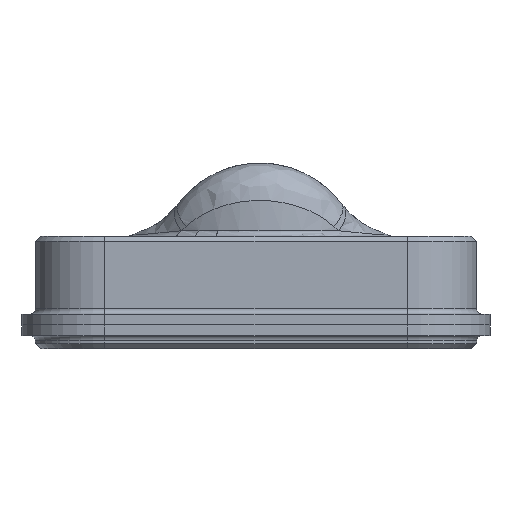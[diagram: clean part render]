
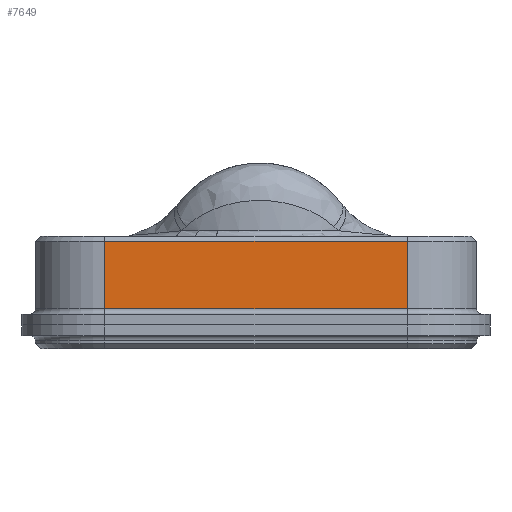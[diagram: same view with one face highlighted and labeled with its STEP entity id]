
A CAD part, left-side view. The second image highlights one B-rep face of the part: STEP entity #7649.
In plain terms, the highlighted planar face has unit normal (1, 0, 0).
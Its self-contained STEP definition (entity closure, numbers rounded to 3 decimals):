
#7622=AXIS2_PLACEMENT_3D('Plane Axis2P3D',#7619,#7620,#7621) ;
#7597=CARTESIAN_POINT('Vertex',(-0.588,73.95,15.6)) ;
#7600=CARTESIAN_POINT('Line Origine',(-0.588,73.95,9.3)) ;
#7604=CARTESIAN_POINT('Vertex',(-0.588,73.95,3.)) ;
#7619=CARTESIAN_POINT('Axis2P3D Location',(-0.588,73.95,0.)) ;
#7624=CARTESIAN_POINT('Line Origine',(-0.588,45.7,15.6)) ;
#7628=CARTESIAN_POINT('Vertex',(-0.588,17.45,15.6)) ;
#7631=CARTESIAN_POINT('Line Origine',(-0.588,17.45,9.3)) ;
#7635=CARTESIAN_POINT('Vertex',(-0.588,17.45,3.)) ;
#7638=CARTESIAN_POINT('Line Origine',(-0.588,45.7,3.)) ;
#7601=DIRECTION('Vector Direction',(0.,0.,1.)) ;
#7620=DIRECTION('Axis2P3D Direction',(-1.,0.,0.)) ;
#7621=DIRECTION('Axis2P3D XDirection',(0.,-1.,0.)) ;
#7625=DIRECTION('Vector Direction',(0.,-1.,0.)) ;
#7632=DIRECTION('Vector Direction',(0.,0.,1.)) ;
#7639=DIRECTION('Vector Direction',(0.,-1.,0.)) ;
#7602=VECTOR('Line Direction',#7601,1.) ;
#7626=VECTOR('Line Direction',#7625,1.) ;
#7633=VECTOR('Line Direction',#7632,1.) ;
#7640=VECTOR('Line Direction',#7639,1.) ;
#7644=ORIENTED_EDGE('',*,*,#7630,.T.) ;
#7645=ORIENTED_EDGE('',*,*,#7637,.F.) ;
#7646=ORIENTED_EDGE('',*,*,#7642,.T.) ;
#7647=ORIENTED_EDGE('',*,*,#7606,.T.) ;
#7649=ADVANCED_FACE('Extract.2',(#7648),#7623,.F.) ;
#7606=EDGE_CURVE('',#7605,#7598,#7603,.T.) ;
#7630=EDGE_CURVE('',#7598,#7629,#7627,.T.) ;
#7637=EDGE_CURVE('',#7636,#7629,#7634,.T.) ;
#7642=EDGE_CURVE('',#7636,#7605,#7641,.F.) ;
#7643=EDGE_LOOP('',(#7644,#7645,#7646,#7647)) ;
#7648=FACE_OUTER_BOUND('',#7643,.T.) ;
#7603=LINE('Line',#7600,#7602) ;
#7627=LINE('Line',#7624,#7626) ;
#7634=LINE('Line',#7631,#7633) ;
#7641=LINE('Line',#7638,#7640) ;
#7623=PLANE('Plane',#7622) ;
#7598=VERTEX_POINT('',#7597) ;
#7605=VERTEX_POINT('',#7604) ;
#7629=VERTEX_POINT('',#7628) ;
#7636=VERTEX_POINT('',#7635) ;
